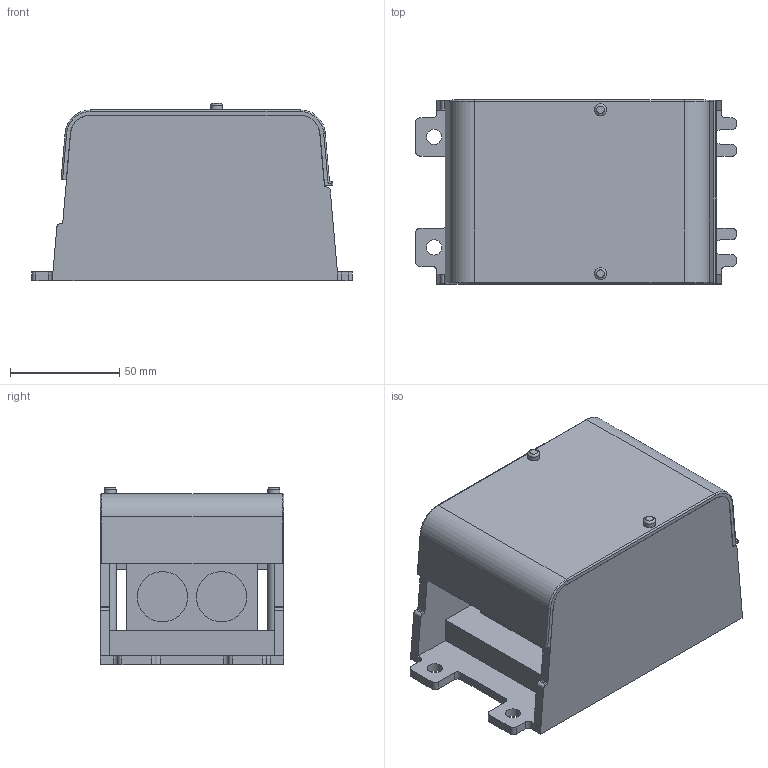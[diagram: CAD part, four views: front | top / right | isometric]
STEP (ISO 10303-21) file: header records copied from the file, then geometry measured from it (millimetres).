
FILE_DESCRIPTION(/* description */ ('Unknown'),/* implementation_level */ '2;1');
FILE_NAME(/* name */ 'utb-s 2x240',/* time_stamp */ '2021-05-10T12:35:57+02:00',/* author */ ('Unknown'),/* organization */ ('Unknown'),/* preprocessor_version */ 'ST-DEVELOPER v16.7',/* originating_system */ 'Solid Edge',/* authorisation */ 'Unknown');
FILE_SCHEMA (('AUTOMOTIVE_DESIGN {1 0 10303 214 3 1 1}'));
Length unit declared in the file: millimetre
Products named in the file (4): utb-s 2x240_sestava; utb-s 2x240; utb-s 2x240_3x120_viko; srb
Assembly tree (4 placements, depth 2):
  utb-s 2x240_sestava
    utb-s 2x240
    utb-s 2x240_3x120_viko
    srb  x2
Bounding box: 146.7 x 84 x 81 mm (x, y, z)
Volume: 359774.2 mm3; surface area: 112718.2 mm2
Topology: 4 solids, 4 shells, 265 faces, 687 edges, 441 vertices
Faces by surface type: plane 149, cylinder 92, cone 8, sphere 6, torus 6, bspline 4
Full cylindrical faces by diameter (mm): 2.4 x4, 3.1 x2, 5.5 x2, 7 x2, 15.8 x4, 23 x4
Entity records: 7822 total; most frequent: CARTESIAN_POINT 1402, DIRECTION 1336, ORIENTED_EDGE 1274, EDGE_CURVE 637, AXIS2_PLACEMENT_3D 455, LINE 426, VECTOR 426, VERTEX_POINT 421
